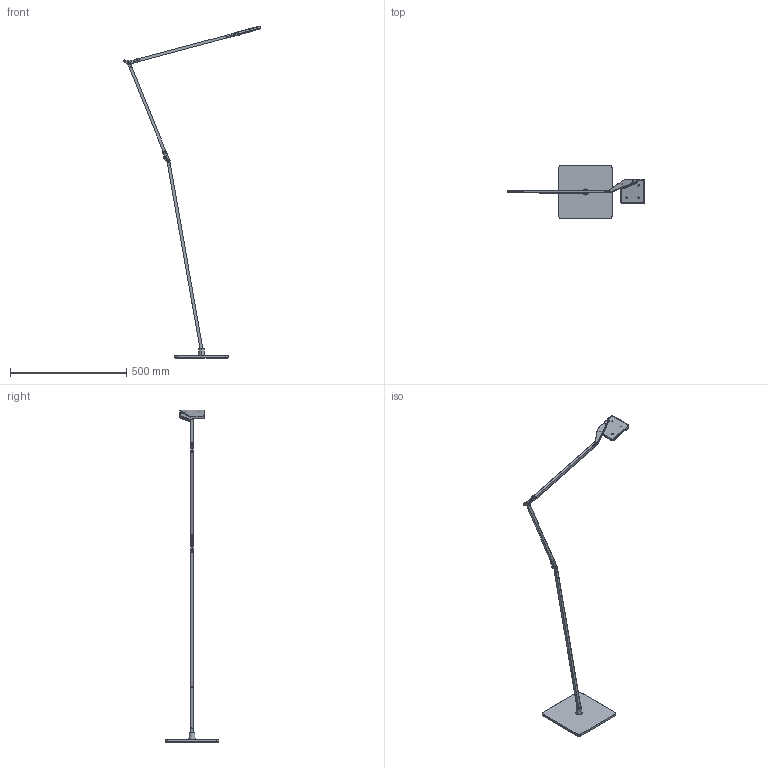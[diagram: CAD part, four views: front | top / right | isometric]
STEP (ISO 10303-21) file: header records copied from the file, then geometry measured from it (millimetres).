
FILE_DESCRIPTION(/* description */ (''),/* implementation_level */ '2;1');
FILE_NAME(/* name */ 'T077__.000',/* time_stamp */ '2024-09-02T12:09:56+02:00',/* author */ (''),/* organization */ (''),/* preprocessor_version */ 'ST-DEVELOPER v16.5',/* originating_system */ '',/* authorisation */ '');
FILE_SCHEMA (('AUTOMOTIVE_DESIGN'));
Products named in the file (1): Document
Bounding box: 592.94 x 231 x 1430.67 mm (x, y, z)
Volume: 710554.6 mm3; surface area: 435518.3 mm2
Topology: 35 solids, 54 shells, 2825 faces, 6671 edges, 4058 vertices
Faces by surface type: bspline 1912, plane 913
Entity records: 125737 total; most frequent: CARTESIAN_POINT 85434, ORIENTED_EDGE 13147, EDGE_CURVE 6645, B_SPLINE_CURVE_WITH_KNOTS 4475, VERTEX_POINT 4057, EDGE_LOOP 3051, ADVANCED_FACE 2825, FACE_OUTER_BOUND 2825
